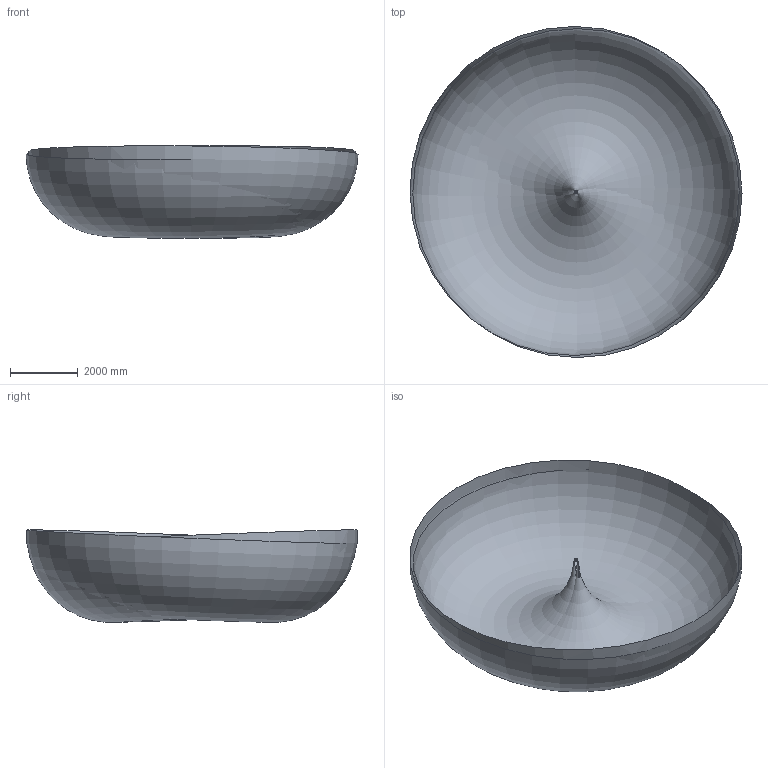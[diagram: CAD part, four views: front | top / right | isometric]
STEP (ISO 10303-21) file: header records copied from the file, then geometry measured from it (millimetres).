
FILE_DESCRIPTION(('Creo Elements/Direct Modeling STEP Export'),'2;1');
FILE_NAME('HBG-60.stp','2015-01-13T16:14:54',(''),(''),'PTC Creo Elements/Direct Modeling STEP processor for AP214 (Solid Model)','PTC Creo Elements/Direct Modeling 19.0 09-May-2014 (C) Parametric Technology GmbH','');
FILE_SCHEMA(('AUTOMOTIVE_DESIGN { 1 0 10303 214 1 1 1 1 }'));
Length unit declared in the file: millimetre
Products named in the file (5): HBG-60A-D.PRT; EEE.PRT; HBG_60A_T_20141112_STP.PRT; A1.ASM; HBG-60
Assembly tree (4 placements, depth 3):
  HBG-60
    A1.ASM
      HBG_60A_T_20141112_STP.PRT
      EEE.PRT
      HBG-60A-D.PRT
Bounding box: 9792.12 x 9765.86 x 2723.02 mm (x, y, z)
Surface area: 232757355.7 mm2
Topology: 3 solids, 3 shells, 1169 faces, 3250 edges, 2041 vertices
Faces by surface type: plane 349, cylinder 288, cone 188, bspline 182, torus 126, sphere 36
Full cylindrical faces by diameter (mm): 1 x4
Entity records: 58393 total; most frequent: CARTESIAN_POINT 23950, ORIENTED_EDGE 6316, DIRECTION 4768, EDGE_CURVE 3158, VERTEX_POINT 2030, AXIS2_PLACEMENT_3D 1812, EDGE_LOOP 1226, FACE_OUTER_BOUND 1169
